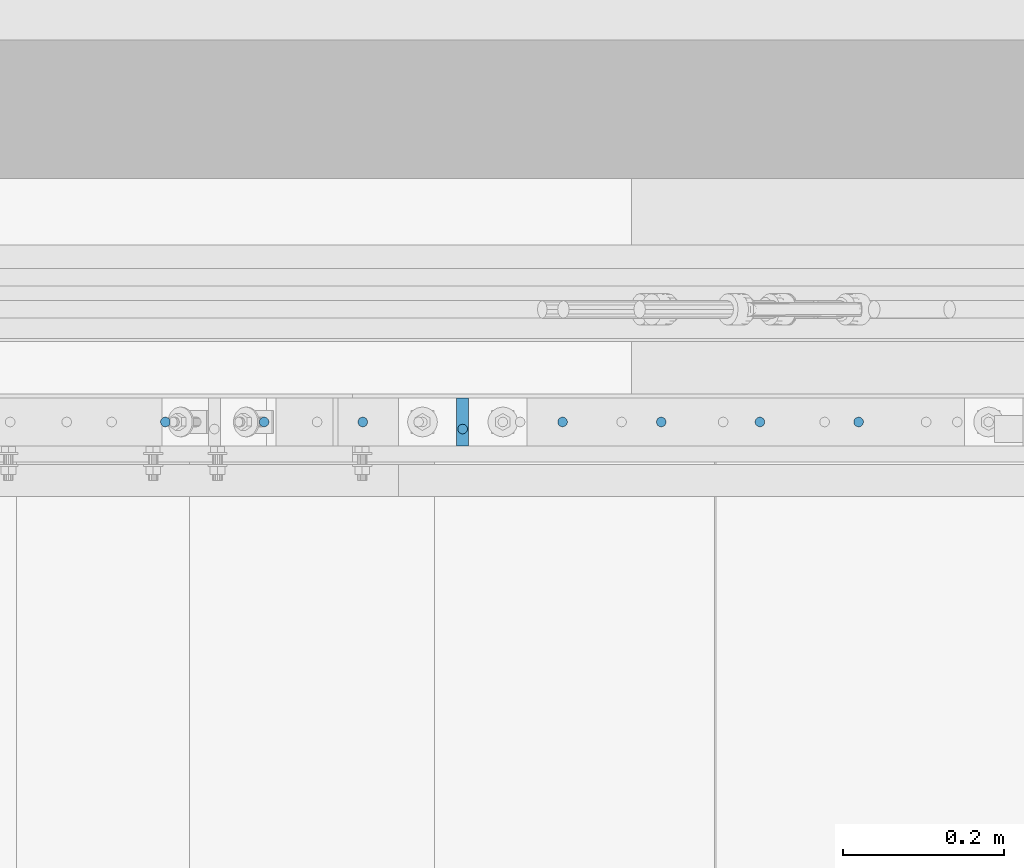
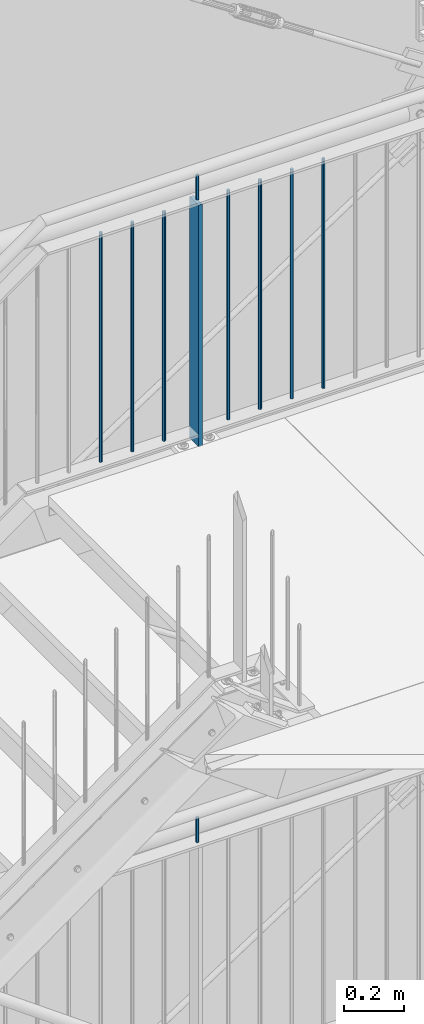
# One storey, part 106 of 817: 10 columns.
"""IFC2X3 building model written with IfcOpenShell, lengths in millimetres."""

from ifc_helpers import new_model, entity, si_unit, converted_unit, frame, origin, origin_with_axes, origin_2d, place, context, project, spatial, rectangle, circle, extrude, clip, halfspace, material, element, save


model = new_model("IFC2X3")

# Units and contexts
model_context = context("Model", 3, precision=1e-09, world=origin_with_axes())
ifc_project = project(units=[si_unit("LENGTHUNIT", "METRE", prefix="MILLI"), si_unit("AREAUNIT", "SQUARE_METRE"), si_unit("VOLUMEUNIT", "CUBIC_METRE"), converted_unit("PLANEANGLEUNIT", "DEGREE", entity("IfcPlaneAngleMeasure", 0.01745329), si_unit("PLANEANGLEUNIT", "RADIAN"), dimensions=[0, 0, 0, 0, 0, 0, 0])], contexts=[model_context])

# Site, building, storey
site_placement = place(None, origin_with_axes())
site = spatial("IfcSite", under=ifc_project, at=site_placement, Name="Cnopf'sche Kinderklinik", CompositionType="ELEMENT")
building_placement = place(site_placement, origin_with_axes())
building = spatial("IfcBuilding", under=site, at=building_placement, Name="Struktur 1", CompositionType="ELEMENT")
storey_placement = place(building_placement, origin_with_axes())
storey = spatial("IfcBuildingStorey", under=building, at=storey_placement, Name="Default Storey", CompositionType="ELEMENT", Elevation=0.0)

# Columns
ifc_material = material(Name="S235JR")
column_1_placement = place(None, frame((7656.713831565, 7347.936971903, 9763.285281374), z_axis=(0.0, 0.0, 1.0), x_axis=(0.0, -1.0, 0.0)))
element("IfcColumn", 1, at=column_1_placement, inside=storey, material=ifc_material, Name="Bar#3", ObjectType="Bar#3", context=model_context, shape_type="Clipping", body=[
    clip(clip(extrude(circle(Radius=6.0, at=origin_2d()), origin(), (0.0, 0.0, -1.0), 116.970562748), halfspace(frame((7347.936971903, -7656.713831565, -8.486281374), z_axis=(0.0, 0.0, -1.0), x_axis=(0.0, -1.0, 0.0)), True)), halfspace(frame((7347.936971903, -7656.713831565, -108.484281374), z_axis=(0.0, 0.0, 1.0), x_axis=(0.0, 1.0, 0.0)), True)),
])
column_2_placement = place(None, frame((7656.713831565, 7356.736971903, 12305.223292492), z_axis=(0.0, 0.0, 1.0), x_axis=(1.0, 0.0, 0.0)))
element("IfcColumn", 2, at=column_2_placement, inside=storey, material=ifc_material, Name="Railing_Post_Landing#3", ObjectType="Railing_Post_Landing#3", context=model_context, shape_type="Clipping", body=[
    clip(clip(extrude(rectangle(XDim=15.0, YDim=60.0, at=origin_2d()), origin(), (0.0, 0.0, -1.0), 1070.646584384), halfspace(frame((-7656.713831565, -7356.736971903, -1019.722292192), z_axis=(0.0, 0.0, 1.0), x_axis=(1.0, 0.0, 0.0)), True)), halfspace(frame((-7656.713831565, -7356.736971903, -30.924292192), z_axis=(0.0, 0.0, -1.0), x_axis=(-1.0, 0.0, 0.0)), True)),
])
column_3_placement = place(None, frame((7286.963783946, 7356.736971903, 12287.785281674), z_axis=(0.0, 0.0, 1.0), x_axis=(1.0, 0.0, 0.0)))
element("IfcColumn", 3, at=column_3_placement, inside=storey, material=ifc_material, Name="Railing_Picket_Landing#18", ObjectType="Railing_Picket_Landing#18", context=model_context, shape_type="Clipping", body=[
    clip(clip(extrude(circle(Radius=6.0, at=origin_2d()), origin(), (0.0, 0.0, -1.0), 965.770562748), halfspace(frame((-7286.963783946, -7356.736971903, -13.486281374), z_axis=(0.0, 0.0, -1.0), x_axis=(-1.0, 0.0, 0.0)), True)), halfspace(frame((-7286.963783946, -7356.736971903, -952.284281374), z_axis=(0.0, 0.0, 1.0), x_axis=(1.0, 0.0, 0.0)), True)),
])
column_4_placement = place(None, frame((7409.713807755, 7356.736971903, 12287.785281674), z_axis=(0.0, 0.0, 1.0), x_axis=(1.0, 0.0, 0.0)))
element("IfcColumn", 4, at=column_4_placement, inside=storey, material=ifc_material, Name="Railing_Picket_Landing#19", ObjectType="Railing_Picket_Landing#19", context=model_context, shape_type="Clipping", body=[
    clip(clip(extrude(circle(Radius=6.0, at=origin_2d()), origin(), (0.0, 0.0, -1.0), 965.770562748), halfspace(frame((-7409.713807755, -7356.736971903, -13.486281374), z_axis=(0.0, 0.0, -1.0), x_axis=(-1.0, 0.0, 0.0)), True)), halfspace(frame((-7409.713807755, -7356.736971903, -952.284281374), z_axis=(0.0, 0.0, 1.0), x_axis=(1.0, 0.0, 0.0)), True)),
])
column_5_placement = place(None, frame((7532.463831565, 7356.736971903, 12287.785281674), z_axis=(0.0, 0.0, 1.0), x_axis=(1.0, 0.0, 0.0)))
element("IfcColumn", 5, at=column_5_placement, inside=storey, material=ifc_material, Name="Railing_Picket_Landing#20", ObjectType="Railing_Picket_Landing#20", context=model_context, shape_type="Clipping", body=[
    clip(clip(extrude(circle(Radius=6.0, at=origin_2d()), origin(), (0.0, 0.0, -1.0), 965.770562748), halfspace(frame((-7532.463831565, -7356.736971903, -13.486281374), z_axis=(0.0, 0.0, -1.0), x_axis=(-1.0, 0.0, 0.0)), True)), halfspace(frame((-7532.463831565, -7356.736971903, -952.284281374), z_axis=(0.0, 0.0, 1.0), x_axis=(1.0, 0.0, 0.0)), True)),
])
column_6_placement = place(None, frame((7780.963831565, 7356.736971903, 12287.785281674), z_axis=(0.0, 0.0, 1.0), x_axis=(1.0, 0.0, 0.0)))
element("IfcColumn", 6, at=column_6_placement, inside=storey, material=ifc_material, Name="Railing_Picket_Landing#21", ObjectType="Railing_Picket_Landing#21", context=model_context, shape_type="Clipping", body=[
    clip(clip(extrude(circle(Radius=6.0, at=origin_2d()), origin(), (0.0, 0.0, -1.0), 965.770562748), halfspace(frame((-7780.963831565, -7356.736971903, -13.486281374), z_axis=(0.0, 0.0, -1.0), x_axis=(-1.0, 0.0, 0.0)), True)), halfspace(frame((-7780.963831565, -7356.736971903, -952.284281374), z_axis=(0.0, 0.0, 1.0), x_axis=(1.0, 0.0, 0.0)), True)),
])
column_7_placement = place(None, frame((7903.713855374, 7356.736971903, 12287.785281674), z_axis=(0.0, 0.0, 1.0), x_axis=(1.0, 0.0, 0.0)))
element("IfcColumn", 7, at=column_7_placement, inside=storey, material=ifc_material, Name="Railing_Picket_Landing#22", ObjectType="Railing_Picket_Landing#22", context=model_context, shape_type="Clipping", body=[
    clip(clip(extrude(circle(Radius=6.0, at=origin_2d()), origin(), (0.0, 0.0, -1.0), 965.770562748), halfspace(frame((-7903.713855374, -7356.736971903, -13.486281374), z_axis=(0.0, 0.0, -1.0), x_axis=(-1.0, 0.0, 0.0)), True)), halfspace(frame((-7903.713855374, -7356.736971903, -952.284281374), z_axis=(0.0, 0.0, 1.0), x_axis=(1.0, 0.0, 0.0)), True)),
])
column_8_placement = place(None, frame((8026.463879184, 7356.736971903, 12287.785281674), z_axis=(0.0, 0.0, 1.0), x_axis=(1.0, 0.0, 0.0)))
element("IfcColumn", 8, at=column_8_placement, inside=storey, material=ifc_material, Name="Railing_Picket_Landing#23", ObjectType="Railing_Picket_Landing#23", context=model_context, shape_type="Clipping", body=[
    clip(clip(extrude(circle(Radius=6.0, at=origin_2d()), origin(), (0.0, 0.0, -1.0), 965.770562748), halfspace(frame((-8026.463879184, -7356.736971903, -13.486281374), z_axis=(0.0, 0.0, -1.0), x_axis=(-1.0, 0.0, 0.0)), True)), halfspace(frame((-8026.463879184, -7356.736971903, -952.284281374), z_axis=(0.0, 0.0, 1.0), x_axis=(1.0, 0.0, 0.0)), True)),
])
column_9_placement = place(None, frame((8149.213902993, 7356.736971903, 12287.785281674), z_axis=(0.0, 0.0, 1.0), x_axis=(1.0, 0.0, 0.0)))
element("IfcColumn", 9, at=column_9_placement, inside=storey, material=ifc_material, Name="Railing_Picket_Landing#24", ObjectType="Railing_Picket_Landing#24", context=model_context, shape_type="Clipping", body=[
    clip(clip(extrude(circle(Radius=6.0, at=origin_2d()), origin(), (0.0, 0.0, -1.0), 965.770562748), halfspace(frame((-8149.213902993, -7356.736971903, -13.486281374), z_axis=(0.0, 0.0, -1.0), x_axis=(-1.0, 0.0, 0.0)), True)), halfspace(frame((-8149.213902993, -7356.736971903, -952.284281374), z_axis=(0.0, 0.0, 1.0), x_axis=(1.0, 0.0, 0.0)), True)),
])
column_10_placement = place(None, frame((7656.713831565, 7347.936971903, 12392.785281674), z_axis=(0.0, 0.0, 1.0), x_axis=(0.0, -1.0, 0.0)))
element("IfcColumn", 10, at=column_10_placement, inside=storey, material=ifc_material, Name="Bar#3", ObjectType="Bar#3", context=model_context, shape_type="Clipping", body=[
    clip(clip(extrude(circle(Radius=6.0, at=origin_2d()), origin(), (0.0, 0.0, -1.0), 116.970562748), halfspace(frame((7347.936971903, -7656.713831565, -8.486281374), z_axis=(0.0, 0.0, -1.0), x_axis=(0.0, -1.0, 0.0)), True)), halfspace(frame((7347.936971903, -7656.713831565, -108.484281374), z_axis=(0.0, 0.0, 1.0), x_axis=(0.0, 1.0, 0.0)), True)),
])

save(model, "model.ifc")
